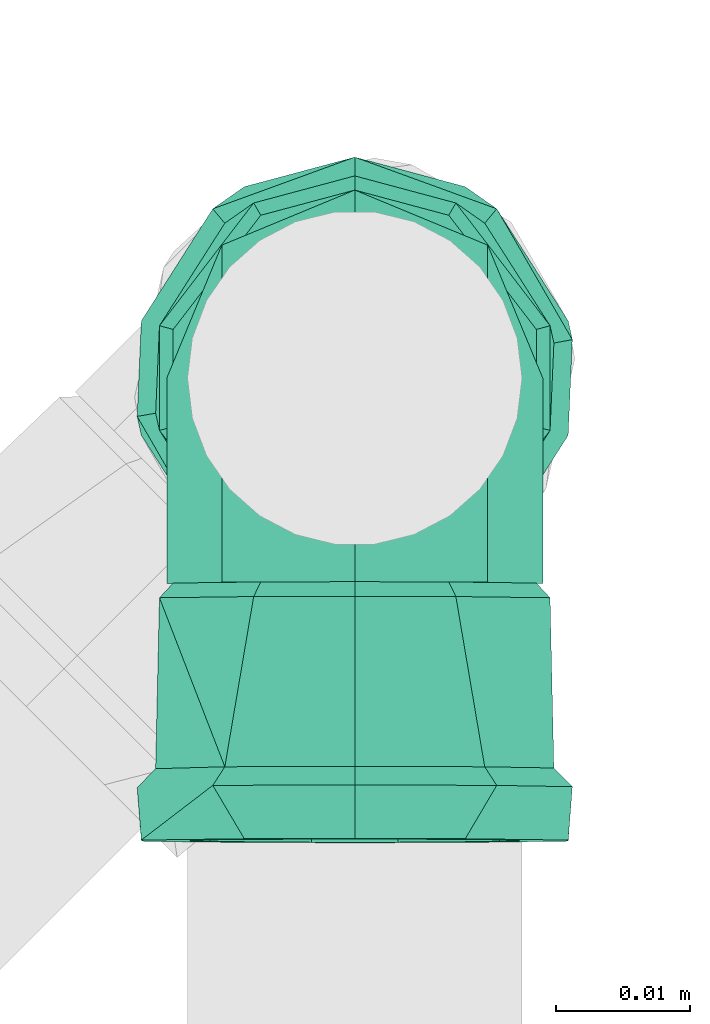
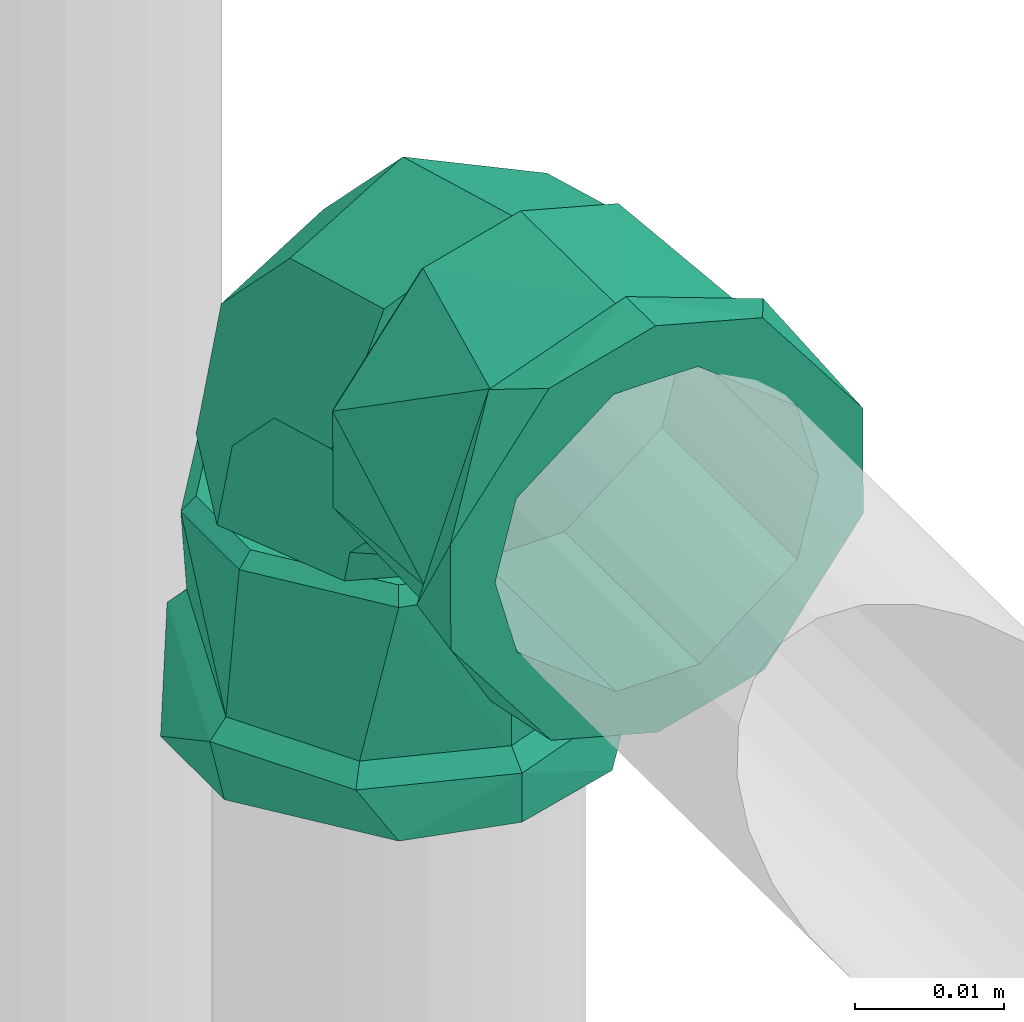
# One storey, part 385 of 589: 1 flow fitting.
"""IFC2X3 building model written with IfcOpenShell, lengths in millimetres."""

from ifc_helpers import new_model, entity, si_unit, converted_unit, derived_unit, direction, frame, origin, place, context, subcontext, project, spatial, faceted_brep, source, transform, mapped, material, type_object, type_shapes, element, save


model = new_model("IFC2X3")

# Units and contexts
model_context = context("Model", 3, precision=0.01, world=origin(), true_north=direction((6.123031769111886e-17, 1.0)))
body_context = subcontext(model_context, "Body", "Model", "MODEL_VIEW")
ifc_project = project(units=[si_unit("LENGTHUNIT", "METRE", prefix="MILLI"), si_unit("AREAUNIT", "SQUARE_METRE"), si_unit("VOLUMEUNIT", "CUBIC_METRE"), converted_unit("PLANEANGLEUNIT", "DEGREE", entity("IfcRatioMeasure", 0.017453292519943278), si_unit("PLANEANGLEUNIT", "RADIAN"), dimensions=[0, 0, 0, 0, 0, 0, 0]), si_unit("MASSUNIT", "GRAM", prefix="KILO"), derived_unit("MASSDENSITYUNIT", [(si_unit("MASSUNIT", "GRAM", prefix="KILO"), 1), (si_unit("LENGTHUNIT", "METRE"), -3)]), derived_unit("IONCONCENTRATIONUNIT", [(si_unit("MASSUNIT", "GRAM", prefix="KILO"), 1), (si_unit("LENGTHUNIT", "METRE"), -3)]), derived_unit("MOMENTOFINERTIAUNIT", [(si_unit("LENGTHUNIT", "METRE"), 4)]), si_unit("TIMEUNIT", "SECOND"), si_unit("FREQUENCYUNIT", "HERTZ"), si_unit("THERMODYNAMICTEMPERATUREUNIT", "DEGREE_CELSIUS"), derived_unit("THERMALTRANSMITTANCEUNIT", [(si_unit("MASSUNIT", "GRAM", prefix="KILO"), 1), (si_unit("THERMODYNAMICTEMPERATUREUNIT", "KELVIN"), -1), (si_unit("TIMEUNIT", "SECOND"), -3)]), derived_unit("THERMALCONDUCTANCEUNIT", [(si_unit("MASSUNIT", "GRAM", prefix="KILO"), 1), (si_unit("THERMODYNAMICTEMPERATUREUNIT", "KELVIN"), -1), (si_unit("TIMEUNIT", "SECOND"), -3), (si_unit("LENGTHUNIT", "METRE"), 1)]), derived_unit("VOLUMETRICFLOWRATEUNIT", [(si_unit("LENGTHUNIT", "METRE"), 3), (si_unit("TIMEUNIT", "SECOND"), -1)]), derived_unit("MASSFLOWRATEUNIT", [(si_unit("MASSUNIT", "GRAM", prefix="KILO"), 1), (si_unit("TIMEUNIT", "SECOND"), -1)]), derived_unit("ROTATIONALFREQUENCYUNIT", [(si_unit("TIMEUNIT", "SECOND"), -1)]), si_unit("ELECTRICCURRENTUNIT", "AMPERE"), si_unit("ELECTRICVOLTAGEUNIT", "VOLT"), si_unit("POWERUNIT", "WATT"), si_unit("FORCEUNIT", "NEWTON", prefix="KILO"), si_unit("ILLUMINANCEUNIT", "LUX"), si_unit("LUMINOUSFLUXUNIT", "LUMEN"), si_unit("LUMINOUSINTENSITYUNIT", "CANDELA"), derived_unit("USERDEFINED", [(si_unit("MASSUNIT", "GRAM", prefix="KILO"), -1), (si_unit("LENGTHUNIT", "METRE"), -2), (si_unit("TIMEUNIT", "SECOND"), 3), (si_unit("LUMINOUSFLUXUNIT", "LUMEN"), 1)]), derived_unit("USERDEFINED", [(si_unit("MASSUNIT", "GRAM", prefix="KILO"), 1), (si_unit("TIMEUNIT", "SECOND"), -3), (si_unit("LENGTHUNIT", "METRE"), 3), (si_unit("ELECTRICCURRENTUNIT", "AMPERE"), -2)]), derived_unit("SOUNDPOWERUNIT", [(si_unit("MASSUNIT", "GRAM", prefix="KILO"), 1), (si_unit("TIMEUNIT", "SECOND"), -3), (si_unit("LENGTHUNIT", "METRE"), 2)]), derived_unit("SOUNDPRESSUREUNIT", [(si_unit("MASSUNIT", "GRAM", prefix="KILO"), 1), (si_unit("LENGTHUNIT", "METRE"), -1), (si_unit("TIMEUNIT", "SECOND"), -2)]), derived_unit("LINEARVELOCITYUNIT", [(si_unit("LENGTHUNIT", "METRE"), 1), (si_unit("TIMEUNIT", "SECOND"), -1)]), si_unit("PRESSUREUNIT", "PASCAL"), derived_unit("USERDEFINED", [(si_unit("MASSUNIT", "GRAM", prefix="KILO"), 1), (si_unit("LENGTHUNIT", "METRE"), -2), (si_unit("TIMEUNIT", "SECOND"), -2)]), derived_unit("LINEARFORCEUNIT", [(si_unit("MASSUNIT", "GRAM", prefix="KILO"), 1), (si_unit("TIMEUNIT", "SECOND"), -2)]), derived_unit("PLANARFORCEUNIT", [(si_unit("MASSUNIT", "GRAM", prefix="KILO"), 1), (si_unit("LENGTHUNIT", "METRE"), -1), (si_unit("TIMEUNIT", "SECOND"), -2)]), derived_unit("SPECIFICHEATCAPACITYUNIT", [(si_unit("THERMODYNAMICTEMPERATUREUNIT", "KELVIN"), -1), (si_unit("LENGTHUNIT", "METRE"), 2), (si_unit("TIMEUNIT", "SECOND"), -2)]), derived_unit("HEATINGVALUEUNIT", [(si_unit("LENGTHUNIT", "METRE"), 2), (si_unit("TIMEUNIT", "SECOND"), -2)]), derived_unit("VAPORPERMEABILITYUNIT", [(si_unit("LENGTHUNIT", "METRE"), -1), (si_unit("TIMEUNIT", "SECOND"), 1)]), derived_unit("DYNAMICVISCOSITYUNIT", [(si_unit("MASSUNIT", "GRAM", prefix="KILO"), 1), (si_unit("TIMEUNIT", "SECOND"), -1), (si_unit("LENGTHUNIT", "METRE"), -1)]), derived_unit("THERMALEXPANSIONCOEFFICIENTUNIT", [(si_unit("THERMODYNAMICTEMPERATUREUNIT", "KELVIN"), -1)]), derived_unit("MODULUSOFELASTICITYUNIT", [(si_unit("MASSUNIT", "GRAM", prefix="KILO"), 1), (si_unit("LENGTHUNIT", "METRE"), -1), (si_unit("TIMEUNIT", "SECOND"), -2)]), derived_unit("ISOTHERMALMOISTURECAPACITYUNIT", [(si_unit("LENGTHUNIT", "METRE"), 3), (si_unit("MASSUNIT", "GRAM", prefix="KILO"), -1)]), derived_unit("MOISTUREDIFFUSIVITYUNIT", [(si_unit("TIMEUNIT", "SECOND"), -1), (si_unit("LENGTHUNIT", "METRE"), 2)])], contexts=[model_context])

# Site, building, storey
site_placement = place(None, origin())
site = spatial("IfcSite", under=ifc_project, at=site_placement, Name="Default", CompositionType="ELEMENT")
building_placement = place(site_placement, origin())
building = spatial("IfcBuilding", under=site, at=building_placement, CompositionType="ELEMENT")
storey_placement = place(building_placement, frame((0.0, 0.0, 100.0)))
storey = spatial("IfcBuildingStorey", under=building, at=storey_placement, Name="TÉRREO", CompositionType="ELEMENT", Elevation=100.0)

# Flow fitting
ifc_material = material(Name="PVC Marrom")
pipe_fitting_type = type_object("IfcPipeFittingType", Name="PVC Marrom Soldável_Joelho 45°_90°_Rodrigo MEP:Joelho", PredefinedType="NOTDEFINED", material=ifc_material)
shared_shape = source(origin(), body_context, "Body", "Brep", [
    faceted_brep([(4.072421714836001, -16.405873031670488, 14.585479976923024), (-3.7435226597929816, -16.48403247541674, 14.585479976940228), (-12.911880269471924, -16.57571605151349, 7.549999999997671), (-14.934795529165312, -16.59594520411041, 0.0), (-12.91188026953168, -16.575716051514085, -7.550000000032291), (-3.7435226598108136, -16.48403247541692, -14.585479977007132), (4.07242171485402, -16.405873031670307, -14.585479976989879), (13.240779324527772, -16.314189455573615, -7.55000000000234), (15.263694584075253, -16.29396030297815, 0.0), (13.240779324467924, -16.314189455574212, 7.549999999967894), (3.7870877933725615, -15.308671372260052, 13.561598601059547), (12.31183884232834, -15.223423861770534, 7.019999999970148), (14.192748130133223, -15.204614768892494, 0.0), (12.311838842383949, -15.223423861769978, -7.02000000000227), (3.7870877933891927, -15.308671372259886, -13.561598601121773), (-3.480187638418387, -15.381344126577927, -13.561598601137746), (-12.004938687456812, -15.466591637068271, -7.020000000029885), (-13.885847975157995, -15.485400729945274, 0.0), (-12.004938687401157, -15.466591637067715, 7.0199999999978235), (-3.4801876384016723, -15.38134412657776, 13.561598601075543)], [[[0, 1, 2, 3, 4, 5, 6, 7, 8, 9]], [[10, 11, 12, 13, 14, 15, 16, 17, 18, 19]], [[13, 12, 8, 7]], [[14, 13, 7, 6]], [[6, 5, 15, 14]], [[16, 15, 5, 4]], [[17, 16, 4, 3]], [[18, 17, 3, 2]], [[19, 18, 2, 1]], [[1, 0, 10, 19]], [[11, 10, 0, 9]], [[12, 11, 9, 8]]]),
    faceted_brep([(-16.445774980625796, -3.908167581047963, 14.585479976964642), (-16.445774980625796, 3.908167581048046, 14.585479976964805), (-16.445774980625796, 13.076983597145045, 7.550000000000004), (-16.445774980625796, 15.100000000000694, 0.0), (-16.445774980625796, 13.0769835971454, -7.550000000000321), (-16.445774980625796, 3.9081675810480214, -14.585479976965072), (-16.445774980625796, -3.9081675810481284, -14.58547997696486), (-16.445774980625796, -13.076983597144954, -7.54999999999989), (-16.445774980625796, -15.099999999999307, 0.0), (-16.445774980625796, -13.076983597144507, 7.549999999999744), (-15.345774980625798, 3.633819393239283, 13.56159860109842), (-15.345774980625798, -3.6338193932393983, 13.561598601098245), (-15.345774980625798, -12.158996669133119, 7.019999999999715), (-15.345774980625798, -14.040000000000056, 0.0), (-15.345774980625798, -12.158996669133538, -7.019999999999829), (-15.345774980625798, -3.6338193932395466, -13.56159860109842), (-15.345774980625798, 3.63381939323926, -13.561598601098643), (-15.345774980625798, 12.158996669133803, -7.020000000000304), (-15.345774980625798, 14.039999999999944, 0.0), (-15.345774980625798, 12.15899666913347, 7.020000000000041)], [[[0, 1, 2, 3, 4, 5, 6, 7, 8, 9]], [[10, 11, 12, 13, 14, 15, 16, 17, 18, 19]], [[14, 13, 8, 7]], [[15, 14, 7, 6]], [[6, 5, 16, 15]], [[17, 16, 5, 4]], [[18, 17, 4, 3]], [[19, 18, 3, 2]], [[10, 19, 2, 1]], [[1, 0, 11, 10]], [[12, 11, 0, 9]], [[13, 12, 9, 8]]]),
    faceted_brep([(-34.545774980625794, 0.0, -12.5), (-34.545774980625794, 6.250000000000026, -10.825317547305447), (-34.545774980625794, 4.2705142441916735, -15.937776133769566), (-34.545774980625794, -4.270514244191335, -15.937776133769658), (-34.545774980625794, -6.250000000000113, -10.82531754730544), (-34.545774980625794, 14.289419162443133, -8.25000000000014), (-34.545774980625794, 12.074072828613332, -3.23523806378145), (-34.545774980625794, 16.5, 0.0), (-34.545774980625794, 12.074072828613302, 3.2352380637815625), (-34.545774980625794, 14.289419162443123, 8.249999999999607), (-34.545774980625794, 6.249999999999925, 10.825317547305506), (-34.545774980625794, 4.27051424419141, 15.937776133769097), (-34.545774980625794, 0.0, 12.5), (-34.545774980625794, -4.270514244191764, 15.937776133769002), (-34.545774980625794, -6.249999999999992, 10.825317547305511), (-34.545774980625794, -14.28941916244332, 8.249999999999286), (-34.545774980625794, -12.074072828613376, 3.2352380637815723), (-34.545774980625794, -16.5, 0.0), (-34.545774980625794, -12.074072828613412, -3.235238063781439), (-34.545774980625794, -14.289419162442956, -8.250000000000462), (-30.545774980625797, -16.5, 0.0), (-30.545774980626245, -12.639142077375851, 10.606700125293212), (-30.545774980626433, -4.885841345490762, 13.427814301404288), (-30.54577498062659, 2.8674593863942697, 16.24892847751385), (-30.545774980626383, 12.64180232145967, 10.603529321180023), (-30.545774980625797, 16.499999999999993, 0.0), (-30.545774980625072, 12.641802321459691, -10.603529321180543), (-30.545774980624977, 4.889209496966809, -13.426588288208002), (-30.54577498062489, -2.8633833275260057, -16.249647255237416), (-30.545774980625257, -12.639142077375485, -10.606700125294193), (-29.145774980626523, 11.56916454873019, 9.703835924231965), (-29.145774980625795, 15.099999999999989, 0.0), (-29.145774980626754, 2.624159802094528, 14.870231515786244), (-29.145774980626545, -4.471285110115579, 12.288484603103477), (-29.14577498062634, -11.566730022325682, 9.706737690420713), (-29.145774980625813, -15.099999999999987, 0.0), (-29.14577498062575, -11.566730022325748, -9.706737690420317), (-29.145774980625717, -2.620429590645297, -14.87088930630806), (-29.14577498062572, 4.4743674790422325, -12.287362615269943), (-29.145774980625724, 11.569164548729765, -9.703835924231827), (-16.445774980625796, 3.908167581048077, -14.585479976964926), (-16.445774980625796, 6.250000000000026, -10.825317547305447), (-16.445774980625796, 0.0, -12.5), (-16.445774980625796, 13.076983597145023, -7.549999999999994), (-16.445774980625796, -3.9081675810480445, -14.585479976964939), (-16.445774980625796, 12.074072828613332, -3.23523806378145), (-16.445774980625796, 15.099999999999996, 0.0), (-16.445774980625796, 12.074072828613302, 3.2352380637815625), (-16.445774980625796, 13.076983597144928, 7.550000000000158), (-16.445774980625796, 6.249999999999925, 10.825317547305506), (-16.445774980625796, 3.9081675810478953, 14.585479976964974), (-16.445774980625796, 0.0, 12.5), (-16.445774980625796, -3.9081675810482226, 14.58547997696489), (-16.445774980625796, -6.249999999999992, 10.825317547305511), (-16.445774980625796, -13.076983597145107, 7.549999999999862), (-16.445774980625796, -12.074072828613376, 3.2352380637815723), (-16.445774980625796, -15.100000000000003, 0.0), (-16.445774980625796, -12.074072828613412, -3.235238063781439), (-16.445774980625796, -13.076983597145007, -7.550000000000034), (-16.445774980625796, -6.250000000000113, -10.82531754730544)], [[[0, 1, 2]], [[2, 3, 0]], [[4, 0, 3]], [[5, 2, 1]], [[1, 6, 5]], [[6, 7, 5]], [[8, 7, 6]], [[7, 8, 9]], [[10, 9, 8]], [[9, 10, 11]], [[12, 11, 10]], [[13, 11, 12]], [[12, 14, 13]], [[13, 14, 15]], [[16, 15, 14]], [[15, 16, 17]], [[16, 18, 17]], [[19, 18, 4]], [[17, 18, 19]], [[3, 19, 4]], [[20, 15, 17]], [[20, 21, 15]], [[13, 15, 21]], [[13, 21, 22, 23]], [[9, 11, 24]], [[7, 9, 25]], [[23, 24, 11]], [[25, 9, 24]], [[13, 23, 11]], [[25, 5, 7]], [[25, 26, 5]], [[2, 5, 26]], [[2, 26, 27, 28]], [[19, 3, 29]], [[17, 19, 20]], [[28, 29, 3]], [[20, 19, 29]], [[2, 28, 3]], [[24, 30, 31, 25]], [[30, 24, 23, 32]], [[33, 32, 23, 22, 21, 34]], [[20, 35, 34, 21]], [[29, 36, 35, 20]], [[36, 29, 28, 37]], [[38, 37, 28, 27, 26, 39]], [[25, 31, 39, 26]], [[40, 41, 42]], [[41, 40, 43]], [[42, 44, 40]], [[43, 45, 41]], [[43, 46, 45]], [[45, 46, 47]], [[48, 47, 46]], [[47, 48, 49]], [[50, 49, 48]], [[49, 50, 51]], [[51, 50, 52]], [[52, 53, 51]], [[54, 53, 52]], [[53, 54, 55]], [[56, 55, 54]], [[56, 57, 55]], [[58, 57, 56]], [[59, 57, 58]], [[59, 58, 44]], [[44, 42, 59]], [[54, 34, 35]], [[56, 54, 35]], [[52, 34, 54]], [[52, 32, 33, 34]], [[30, 32, 50]], [[31, 30, 48]], [[50, 48, 30]], [[46, 31, 48]], [[52, 50, 32]], [[43, 39, 31]], [[46, 43, 31]], [[40, 39, 43]], [[40, 37, 38, 39]], [[36, 37, 44]], [[35, 36, 58]], [[44, 58, 36]], [[56, 35, 58]], [[40, 44, 37]], [[49, 51, 12, 10]], [[47, 49, 10, 8]], [[8, 6, 45, 47]], [[41, 45, 6, 1]], [[42, 41, 1, 0]], [[59, 42, 0, 4]], [[57, 59, 4, 18]], [[18, 16, 55, 57]], [[53, 55, 16, 14]], [[51, 53, 14, 12]]]),
    faceted_brep([(10.13758433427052, -0.5597858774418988, 0.0), (6.590082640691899, -2.6395915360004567, 9.92777920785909), (10.080732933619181, -15.245734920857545, 9.92777920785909), (14.192748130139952, -15.20461476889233, 0.0), (-1.9743440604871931, -7.660686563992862, 14.04), (0.15345007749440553, -15.34500774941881, 14.04), (-10.538770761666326, -12.681781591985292, 9.927779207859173), (-9.77383277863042, -15.444280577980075, 9.927779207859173), (-14.086272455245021, -14.761587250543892, 0.0), (-13.885847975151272, -15.48540072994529, 0.0), (-10.538770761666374, -12.681781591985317, -9.92777920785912), (-9.77383277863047, -15.444280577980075, -9.92777920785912), (-1.974344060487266, -7.660686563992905, -14.04), (0.15345007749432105, -15.34500774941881, -14.04), (6.590082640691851, -2.6395915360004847, -9.927779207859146), (10.080732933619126, -15.245734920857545, -9.927779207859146), (-0.6611286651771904, 10.131479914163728, 0.0), (-2.7053570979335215, 6.563358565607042, 9.92777920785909), (-7.640561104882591, -2.050848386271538, 14.04), (-12.575765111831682, -10.665055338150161, 9.927779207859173), (-14.619993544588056, -14.233176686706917, 0.0), (-12.57576511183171, -10.665055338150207, -9.92777920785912), (-7.640561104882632, -2.050848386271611, -14.04), (-2.705357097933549, 6.563358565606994, -9.927779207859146), (-15.345774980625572, 14.03999999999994, 0.0), (-15.3457749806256, 9.927779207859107, 9.92777920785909), (-15.345774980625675, 0.0, 14.04), (-15.345774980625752, -9.927779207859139, 9.927779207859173), (-15.345774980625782, -14.040000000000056, 0.0), (-15.345774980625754, -9.927779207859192, -9.92777920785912), (-15.345774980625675, 0.0, -14.04), (-15.3457749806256, 9.92777920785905, -9.927779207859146)], [[[0, 1, 2, 3]], [[1, 4, 5, 2]], [[4, 6, 7, 5]], [[6, 8, 9, 7]], [[8, 10, 11, 9]], [[10, 12, 13, 11]], [[12, 14, 15, 13]], [[14, 0, 3, 15]], [[16, 17, 1, 0]], [[17, 18, 4, 1]], [[18, 19, 6, 4]], [[19, 20, 8, 6]], [[20, 21, 10, 8]], [[21, 22, 12, 10]], [[22, 23, 14, 12]], [[23, 16, 0, 14]], [[24, 25, 17, 16]], [[25, 26, 18, 17]], [[26, 27, 19, 18]], [[27, 28, 20, 19]], [[28, 29, 21, 20]], [[29, 30, 22, 21]], [[30, 31, 23, 22]], [[31, 24, 16, 23]], [[3, 2, 5, 7, 9, 11, 13, 15]], [[31, 30, 29, 28, 27, 26, 25, 24]]]),
    faceted_brep([(-3.743522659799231, -16.484032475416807, -14.585479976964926), (-6.085237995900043, -16.507449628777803, -10.825317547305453), (0.16444952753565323, -16.444952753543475, -12.5), (-12.911880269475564, -16.575716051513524, -7.5499999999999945), (4.072421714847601, -16.40587303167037, -14.585479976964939), (-11.90901964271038, -16.565687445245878, -3.235238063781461), (-14.934795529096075, -16.595945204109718, 0.0), (-11.90901964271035, -16.565687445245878, 3.2352380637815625), (-12.911880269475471, -16.575716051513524, 7.550000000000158), (-6.08523799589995, -16.507449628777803, 10.825317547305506), (-3.7435226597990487, -16.484032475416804, 14.585479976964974), (0.16444952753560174, -16.444952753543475, 12.5), (4.0724217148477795, -16.40587303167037, 14.58547997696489), (6.414137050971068, -16.38245587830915, 10.825317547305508), (13.240779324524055, -16.31418945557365, 7.549999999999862), (12.23791869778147, -16.324218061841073, 3.2352380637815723), (15.263694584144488, -16.293960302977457, 0.0), (12.23791869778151, -16.324218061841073, -3.235238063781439), (13.240779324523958, -16.31418945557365, -7.550000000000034), (6.414137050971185, -16.38245587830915, -10.82531754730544), (11.85759490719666, -29.02865628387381, 9.706737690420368), (15.39068823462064, -28.99332535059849, 0.0), (2.911741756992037, -29.11811481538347, 14.870889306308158), (-11.27714295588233, -29.260003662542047, 9.703835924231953), (-4.182700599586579, -29.189059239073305, 12.287362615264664), (-14.807801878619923, -29.29531025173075, 0.0), (-11.27714295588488, -29.26000366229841, -9.703835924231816), (-2.332585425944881, -29.170558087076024, -14.870231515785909), (11.857594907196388, -29.028656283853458, -9.706737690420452), (4.76250474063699, -29.099607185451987, -12.28848460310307), (3.1727585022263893, -30.515574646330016, 16.248928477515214), (-4.580154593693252, -30.59310377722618, 13.427814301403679), (-16.193732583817, -30.709239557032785, 0.0), (-12.333067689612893, -30.670632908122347, 10.606700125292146), (12.946612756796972, -30.41783610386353, 10.603529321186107), (16.80461753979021, -30.37925605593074, 0.0), (12.946612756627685, -30.41783610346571, -10.603529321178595), (5.194407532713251, -30.495358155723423, -13.426588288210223), (-2.557797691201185, -30.572880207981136, -16.249647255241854), (-12.333067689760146, -30.670632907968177, -10.606700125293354), (0.34544047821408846, -34.54404782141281, -12.5), (-5.904247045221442, -34.606544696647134, -10.825317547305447), (-3.9248602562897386, -34.58675082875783, -15.937776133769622), (4.61574121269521, -34.50134481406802, -15.937776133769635), (6.595128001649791, -34.48155094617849, -10.82531754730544), (-13.94326426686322, -34.68693486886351, -8.24999999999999), (-11.72802869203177, -34.664782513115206, -3.23523806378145), (-16.153734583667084, -34.709039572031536, 0.0), (-11.72802869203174, -34.664782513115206, 3.2352380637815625), (-13.943264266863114, -34.68693486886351, 8.250000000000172), (-5.904247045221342, -34.606544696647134, 10.825317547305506), (-3.92486025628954, -34.58675082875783, 15.937776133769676), (0.34544047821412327, -34.54404782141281, 12.5), (4.615741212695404, -34.50134481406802, 15.937776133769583), (6.5951280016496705, -34.48155094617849, 10.825317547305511), (14.63414522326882, -34.40116077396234, 8.24999999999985), (12.418909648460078, -34.423313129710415, 3.2352380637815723), (16.844615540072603, -34.37905607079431, 0.0), (12.418909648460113, -34.423313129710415, -3.235238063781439), (14.634145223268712, -34.40116077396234, -8.250000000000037)], [[[0, 1, 2]], [[1, 0, 3]], [[2, 4, 0]], [[3, 5, 1]], [[3, 6, 5]], [[5, 6, 7]], [[8, 7, 6]], [[7, 8, 9]], [[10, 9, 8]], [[9, 10, 11]], [[11, 10, 12]], [[12, 13, 11]], [[14, 13, 12]], [[13, 14, 15]], [[16, 15, 14]], [[16, 17, 15]], [[18, 17, 16]], [[19, 17, 18]], [[19, 18, 4]], [[4, 2, 19]], [[14, 20, 21]], [[16, 14, 21]], [[12, 20, 14]], [[12, 22, 20]], [[10, 23, 24, 22]], [[25, 23, 8]], [[10, 8, 23]], [[6, 25, 8]], [[12, 10, 22]], [[3, 26, 25]], [[6, 3, 25]], [[0, 26, 3]], [[0, 27, 26]], [[4, 28, 29, 27]], [[21, 28, 18]], [[4, 18, 28]], [[16, 21, 18]], [[0, 4, 27]], [[30, 22, 31]], [[32, 23, 25]], [[33, 23, 32]], [[31, 24, 33]], [[34, 21, 20]], [[24, 23, 33]], [[20, 30, 34]], [[21, 34, 35]], [[24, 31, 22]], [[22, 30, 20]], [[36, 28, 21]], [[21, 35, 36]], [[36, 37, 28]], [[37, 29, 28]], [[37, 38, 29]], [[32, 25, 26]], [[27, 39, 26]], [[32, 26, 39]], [[27, 29, 38]], [[38, 39, 27]], [[40, 41, 42]], [[42, 43, 40]], [[44, 40, 43]], [[45, 42, 41]], [[41, 46, 45]], [[46, 47, 45]], [[48, 47, 46]], [[47, 48, 49]], [[50, 49, 48]], [[49, 50, 51]], [[52, 51, 50]], [[53, 51, 52]], [[52, 54, 53]], [[53, 54, 55]], [[56, 55, 54]], [[55, 56, 57]], [[56, 58, 57]], [[59, 58, 44]], [[57, 58, 59]], [[43, 59, 44]], [[35, 55, 57]], [[35, 34, 55]], [[53, 55, 34]], [[30, 53, 34]], [[49, 51, 33]], [[47, 49, 32]], [[51, 30, 31, 33]], [[32, 49, 33]], [[53, 30, 51]], [[32, 45, 47]], [[32, 39, 45]], [[42, 45, 39]], [[38, 42, 39]], [[59, 43, 36]], [[57, 59, 35]], [[43, 38, 37, 36]], [[35, 59, 36]], [[42, 38, 43]], [[9, 11, 52, 50]], [[7, 9, 50, 48]], [[48, 46, 5, 7]], [[1, 5, 46, 41]], [[2, 1, 41, 40]], [[19, 2, 40, 44]], [[17, 19, 44, 58]], [[58, 56, 15, 17]], [[13, 15, 56, 54]], [[11, 13, 54, 52]]]),
])
type_shapes(pipe_fitting_type, [shared_shape])
flow_fitting_placement = place(storey_placement, frame((384.8399224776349, -5725.435674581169, 2576.374293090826), z_axis=(1.0, 0.0, 0.0), x_axis=(0.0, 0.9999500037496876, -0.009999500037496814)))
element("IfcFlowFitting", 1, at=flow_fitting_placement, inside=storey, type_object=pipe_fitting_type, material=ifc_material, Name="PVC Marrom Soldável_Joelho 45°_90°_Rodrigo MEP:Joelho", ObjectType="PVC Marrom Soldável_Joelho 45°_90°_Rodrigo MEP:Joelho", context=body_context, shape_type="MappedRepresentation", body=[
    mapped(shared_shape, transform((0.0, 0.0, 0.0), scale=1.0)),
])

save(model, "model.ifc")
